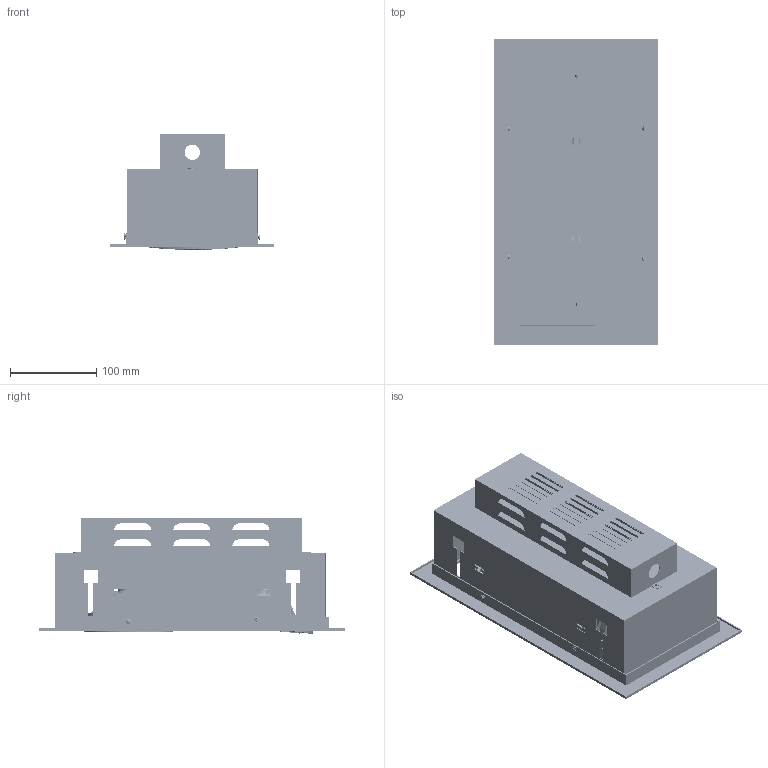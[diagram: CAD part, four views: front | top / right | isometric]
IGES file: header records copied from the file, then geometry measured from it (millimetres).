
Start section: SolidWorks IGES file using NURBS representation for surfaces
Global section: file name: Z:\Modele 3D_WWW\_KOLEKCJE_WWW\DOWNLIGHT-II-9570\DOWNLIGHT-II-9570.IGS; native system: SolidWorks 2021; preprocessor: SolidWorks 2021; author: gabriela.tworek; date: 210928.153429; units: millimetre
Bounding box: 190 x 354 x 134 mm (x, y, z)
Surface area: 617972.6 mm2 (no closed solid volume)
Topology: 0 solids, 0 shells, 8288 faces, 58154 edges, 58130 vertices
Faces by surface type: bspline 8288
